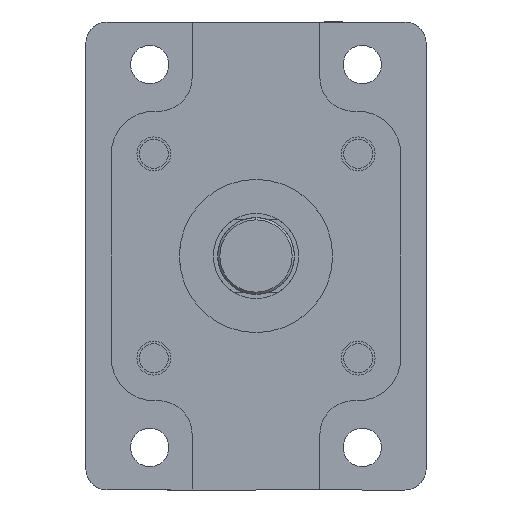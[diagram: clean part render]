
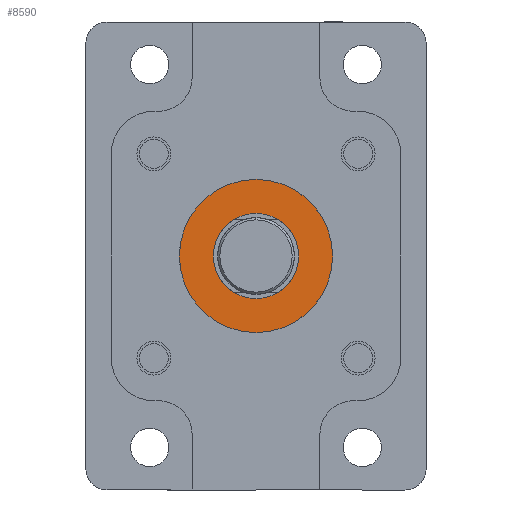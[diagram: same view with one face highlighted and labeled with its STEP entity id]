
A CAD part, left-side view. The second image highlights one B-rep face of the part: STEP entity #8590.
In plain terms, the highlighted planar face has unit normal (-1, 0, 0) as drawn and (1, 0, 0) by its records, which use the part's own axes.
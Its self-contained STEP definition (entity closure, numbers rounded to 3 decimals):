
#937 = CIRCLE ( 'NONE', #4344, 18. ) ;
#1155 = ORIENTED_EDGE ( 'NONE', *, *, #7529, .T. ) ;
#1351 = CARTESIAN_POINT ( 'NONE',  ( 26., 0., 0. ) ) ;
#1392 = EDGE_CURVE ( 'NONE', #5951, #5862, #10488, .T. ) ;
#1747 = EDGE_CURVE ( 'NONE', #5862, #5951, #937, .T. ) ;
#2036 = CIRCLE ( 'NONE', #11689, 10. ) ;
#2163 = CARTESIAN_POINT ( 'NONE',  ( 26., 0., 0. ) ) ;
#2264 = ORIENTED_EDGE ( 'NONE', *, *, #1747, .F. ) ;
#2306 = AXIS2_PLACEMENT_3D ( 'NONE', #6498, #7286, #11540 ) ;
#2547 = DIRECTION ( 'NONE',  ( -1., 0., 0. ) ) ;
#2581 = DIRECTION ( 'NONE',  ( -1., 0., 0. ) ) ;
#3532 = ORIENTED_EDGE ( 'NONE', *, *, #10584, .T. ) ;
#4238 = EDGE_LOOP ( 'NONE', ( #3532, #1155 ) ) ;
#4344 = AXIS2_PLACEMENT_3D ( 'NONE', #6372, #8984, #10186 ) ;
#4362 = AXIS2_PLACEMENT_3D ( 'NONE', #2163, #10311, #11130 ) ;
#4895 = FACE_BOUND ( 'NONE', #4238, .T. ) ;
#5176 = CARTESIAN_POINT ( 'NONE',  ( 26., 0., -18. ) ) ;
#5591 = VERTEX_POINT ( 'NONE', #6104 ) ;
#5709 = DIRECTION ( 'NONE',  ( 0., 0., 1. ) ) ;
#5795 = ORIENTED_EDGE ( 'NONE', *, *, #1392, .F. ) ;
#5862 = VERTEX_POINT ( 'NONE', #5176 ) ;
#5951 = VERTEX_POINT ( 'NONE', #7593 ) ;
#6104 = CARTESIAN_POINT ( 'NONE',  ( 26., 0., 10. ) ) ;
#6372 = CARTESIAN_POINT ( 'NONE',  ( 26., 0., 0. ) ) ;
#6498 = CARTESIAN_POINT ( 'NONE',  ( 26., 10., 0. ) ) ;
#7252 = DIRECTION ( 'NONE',  ( 0., 0., 1. ) ) ;
#7286 = DIRECTION ( 'NONE',  ( -1., 0., 0. ) ) ;
#7449 = EDGE_LOOP ( 'NONE', ( #5795, #2264 ) ) ;
#7529 = EDGE_CURVE ( 'NONE', #7654, #5591, #2036, .T. ) ;
#7593 = CARTESIAN_POINT ( 'NONE',  ( 26., 0., 18. ) ) ;
#7654 = VERTEX_POINT ( 'NONE', #8021 ) ;
#8021 = CARTESIAN_POINT ( 'NONE',  ( 26., 0., -10. ) ) ;
#8318 = CARTESIAN_POINT ( 'NONE',  ( 26., 0., 0. ) ) ;
#8590 = ADVANCED_FACE ( 'NONE', ( #8695, #4895 ), #10729, .F. ) ;
#8637 = CIRCLE ( 'NONE', #11412, 10. ) ;
#8695 = FACE_OUTER_BOUND ( 'NONE', #7449, .T. ) ;
#8984 = DIRECTION ( 'NONE',  ( -1., 0., 0. ) ) ;
#10186 = DIRECTION ( 'NONE',  ( 0., 0., 1. ) ) ;
#10311 = DIRECTION ( 'NONE',  ( -1., 0., 0. ) ) ;
#10488 = CIRCLE ( 'NONE', #4362, 18. ) ;
#10584 = EDGE_CURVE ( 'NONE', #5591, #7654, #8637, .T. ) ;
#10729 = PLANE ( 'NONE',  #2306 ) ;
#11130 = DIRECTION ( 'NONE',  ( 0., 0., 1. ) ) ;
#11412 = AXIS2_PLACEMENT_3D ( 'NONE', #8318, #2581, #5709 ) ;
#11540 = DIRECTION ( 'NONE',  ( 0., 0., 1. ) ) ;
#11689 = AXIS2_PLACEMENT_3D ( 'NONE', #1351, #2547, #7252 ) ;
